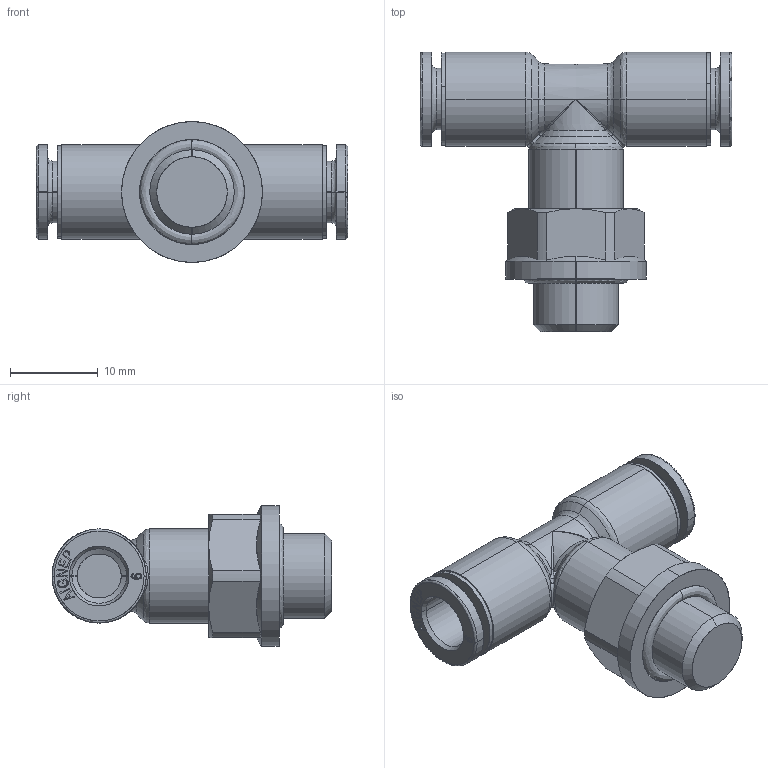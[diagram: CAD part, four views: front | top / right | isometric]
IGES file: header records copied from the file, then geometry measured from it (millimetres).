
Start section: SolidWorks IGES file using analytic representation for surfaces
Global section: file name: K:\Disegni Esecutivi\SERIE 54000\54000-Assiemi\54217\IGES e STEP\5421700013A.IGS; native system: SolidWorks 2020; preprocessor: SolidWorks 2020; author: LUCA COMETTI; date: 250701.082736; units: millimetre
Bounding box: 35.4 x 31.8 x 16 mm (x, y, z)
Surface area: 3131.8 mm2 (no closed solid volume)
Topology: 0 solids, 0 shells, 313 faces, 2964 edges, 2956 vertices
Faces by surface type: bspline 242, revolution 71
